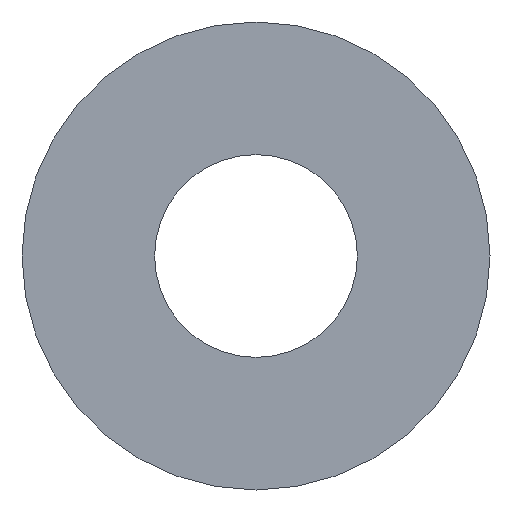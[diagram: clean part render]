
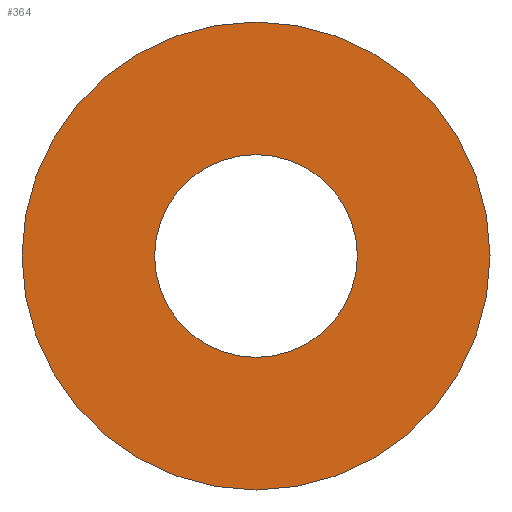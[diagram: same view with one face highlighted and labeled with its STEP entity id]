
A CAD part, left-side view. The second image highlights one B-rep face of the part: STEP entity #364.
In plain terms, the highlighted planar face has unit normal (-1, 0, 0).
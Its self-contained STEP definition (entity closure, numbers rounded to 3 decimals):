
#7 = VERTEX_POINT ( 'NONE', #69 ) ;
#13 = ORIENTED_EDGE ( 'NONE', *, *, #338, .F. ) ;
#22 = DIRECTION ( 'NONE',  ( 1., 0., 0. ) ) ;
#35 = FACE_OUTER_BOUND ( 'NONE', #149, .T. ) ;
#51 = CARTESIAN_POINT ( 'NONE',  ( -0.15, 0., 0. ) ) ;
#60 = AXIS2_PLACEMENT_3D ( 'NONE', #51, #216, #361 ) ;
#69 = CARTESIAN_POINT ( 'NONE',  ( -0.15, 0., 3.25 ) ) ;
#87 = EDGE_LOOP ( 'NONE', ( #209, #328 ) ) ;
#95 = CIRCLE ( 'NONE', #60, 3.25 ) ;
#102 = FACE_BOUND ( 'NONE', #87, .T. ) ;
#113 = PLANE ( 'NONE',  #270 ) ;
#117 = DIRECTION ( 'NONE',  ( 1., 0., 0. ) ) ;
#127 = AXIS2_PLACEMENT_3D ( 'NONE', #346, #117, #281 ) ;
#146 = CARTESIAN_POINT ( 'NONE',  ( -0.15, 0., -7.5 ) ) ;
#149 = EDGE_LOOP ( 'NONE', ( #13, #233 ) ) ;
#157 = AXIS2_PLACEMENT_3D ( 'NONE', #347, #251, #319 ) ;
#170 = EDGE_CURVE ( 'Edge 3', #356, #273, #289, .T. ) ;
#189 = CARTESIAN_POINT ( 'NONE',  ( -0.15, 0., -3.25 ) ) ;
#209 = ORIENTED_EDGE ( 'NONE', *, *, #268, .T. ) ;
#216 = DIRECTION ( 'NONE',  ( 1., 0., 0. ) ) ;
#219 = DIRECTION ( 'NONE',  ( 0., 0., -1. ) ) ;
#225 = CARTESIAN_POINT ( 'NONE',  ( -0.15, 0., 0. ) ) ;
#231 = DIRECTION ( 'NONE',  ( 0., 0., -1. ) ) ;
#233 = ORIENTED_EDGE ( 'NONE', *, *, #170, .F. ) ;
#250 = EDGE_CURVE ( 'Edge 24', #7, #314, #95, .T. ) ;
#251 = DIRECTION ( 'NONE',  ( 1., 0., 0. ) ) ;
#264 = CIRCLE ( 'NONE', #127, 7.5 ) ;
#268 = EDGE_CURVE ( 'Edge 24', #314, #7, #352, .T. ) ;
#270 = AXIS2_PLACEMENT_3D ( 'NONE', #354, #22, #231 ) ;
#273 = VERTEX_POINT ( 'NONE', #146 ) ;
#281 = DIRECTION ( 'NONE',  ( 0., 0., -1. ) ) ;
#289 = CIRCLE ( 'NONE', #157, 7.5 ) ;
#314 = VERTEX_POINT ( 'NONE', #189 ) ;
#316 = CARTESIAN_POINT ( 'NONE',  ( -0.15, 0., 7.5 ) ) ;
#319 = DIRECTION ( 'NONE',  ( 0., 0., -1. ) ) ;
#328 = ORIENTED_EDGE ( 'NONE', *, *, #250, .T. ) ;
#329 = AXIS2_PLACEMENT_3D ( 'NONE', #225, #357, #219 ) ;
#338 = EDGE_CURVE ( 'Edge 3', #273, #356, #264, .T. ) ;
#346 = CARTESIAN_POINT ( 'NONE',  ( -0.15, 0., 0. ) ) ;
#347 = CARTESIAN_POINT ( 'NONE',  ( -0.15, 0., 0. ) ) ;
#352 = CIRCLE ( 'NONE', #329, 3.25 ) ;
#354 = CARTESIAN_POINT ( 'NONE',  ( -0.15, 0., 0. ) ) ;
#356 = VERTEX_POINT ( 'NONE', #316 ) ;
#357 = DIRECTION ( 'NONE',  ( 1., 0., 0. ) ) ;
#361 = DIRECTION ( 'NONE',  ( 0., 0., -1. ) ) ;
#364 = ADVANCED_FACE ( 'Face 2', ( #102, #35 ), #113, .F. ) ;
